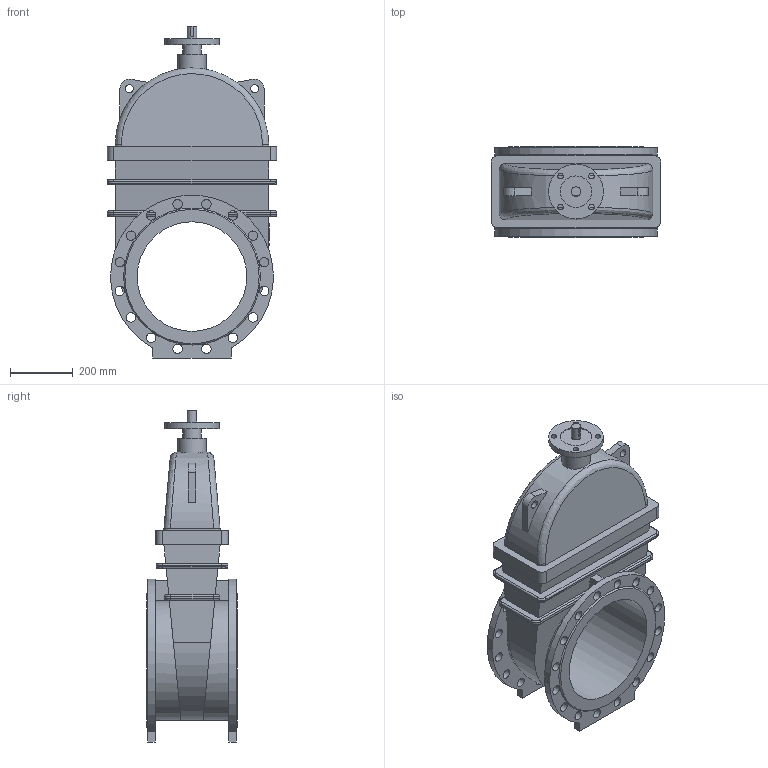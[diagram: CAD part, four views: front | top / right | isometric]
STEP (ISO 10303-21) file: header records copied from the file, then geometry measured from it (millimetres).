
FILE_DESCRIPTION(('STEP AP203'), '1');
FILE_NAME('Çàäâèæêà 47GVA.Z DN350 PN10_PN16 áåç èñïîëíèò. ìåõ.', '', ('UNSPECIFIED'), ('UNSPECIFIED'), 'ASCON STEP Converter 1.6', 'ASCON Math Kernel', '');
FILE_SCHEMA(('CONFIG_CONTROL_DESIGN'));
Length unit declared in the file: millimetre
Bounding box: 540 x 290 x 1060 mm (x, y, z)
Volume: 52985987.5 mm3; surface area: 2114387.5 mm2
Topology: 1 solids, 1 shells, 205 faces, 515 edges, 330 vertices
Faces by surface type: cylinder 97, plane 88, bspline 10, torus 8, cone 2
Full cylindrical faces by diameter (mm): 18 x4, 25 x2, 30 x33, 60 x1, 90 x1, 100 x1, 175 x1, 350 x1
Entity records: 9248 total; most frequent: CARTESIAN_POINT 2674, DIRECTION 1004, ORIENTED_EDGE 938, EDGE_CURVE 469, AXIS2_PLACEMENT_3D 385, EDGE_LOOP 347, VERTEX_POINT 330, FACE_BOUND 256
